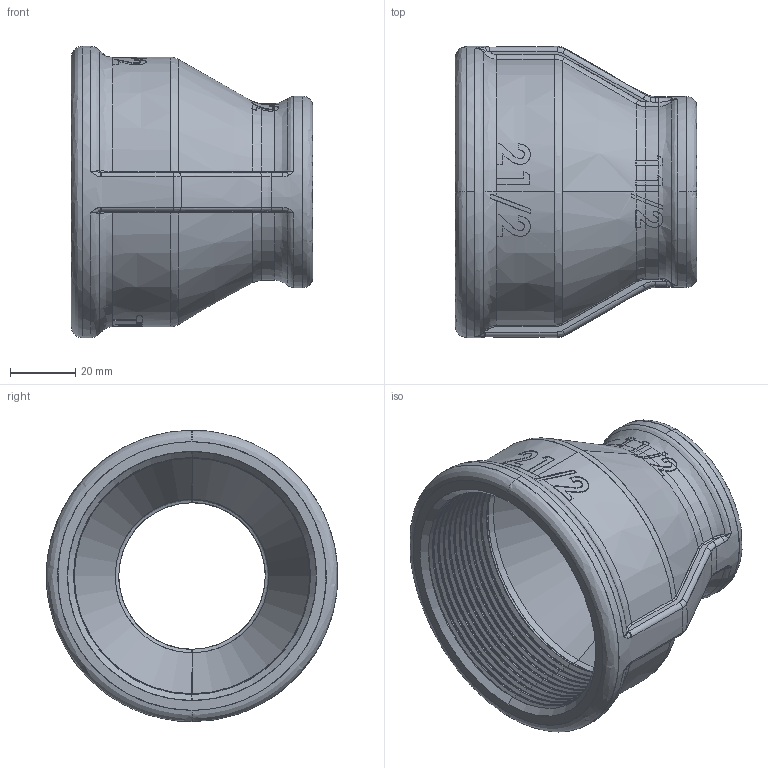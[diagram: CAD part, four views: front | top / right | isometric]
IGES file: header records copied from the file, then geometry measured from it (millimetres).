
Start section: SolidWorks IGES file using analytic representation for surfaces
Global section: file name: C:\Users\Joel Rosa\Desktop\Tubulação\12-32-OK\12-32-050.IGS; native system: SolidWorks 2011; preprocessor: SolidWorks 2011; author: Joel Rosa; date: 121209.022218; units: millimetre
Bounding box: 74 x 89.3 x 89.3 mm (x, y, z)
Surface area: 42045.5 mm2 (no closed solid volume)
Topology: 0 solids, 0 shells, 480 faces, 4312 edges, 4306 vertices
Faces by surface type: bspline 340, revolution 140
